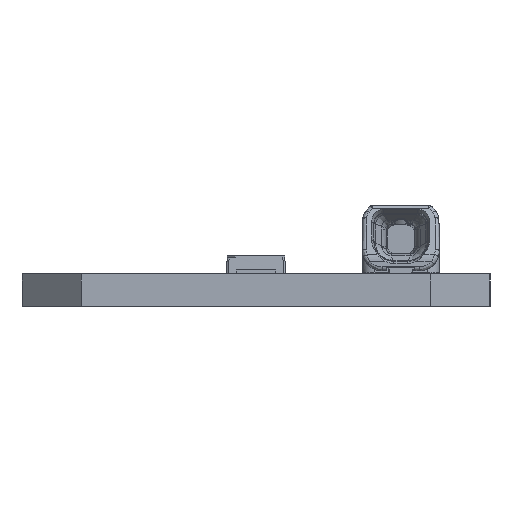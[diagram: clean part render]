
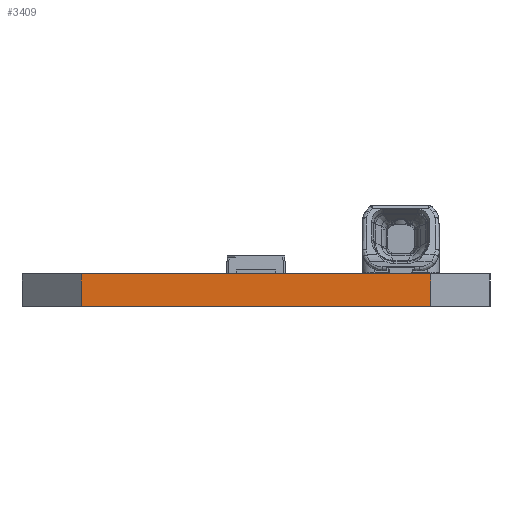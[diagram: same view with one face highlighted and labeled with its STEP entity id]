
A CAD part, left-side view. The second image highlights one B-rep face of the part: STEP entity #3409.
In plain terms, the highlighted planar face has unit normal (-1, 0, 0).
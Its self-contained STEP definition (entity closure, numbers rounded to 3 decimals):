
#313 = AXIS2_PLACEMENT_3D ( 'NONE', #16901, #8953, #1080 ) ;
#432 = ORIENTED_EDGE ( 'NONE', *, *, #13729, .F. ) ;
#544 = DIRECTION ( 'NONE',  ( 0., 0., -1. ) ) ;
#621 = CARTESIAN_POINT ( 'NONE',  ( 7., 8., 0. ) ) ;
#1016 = DIRECTION ( 'NONE',  ( 0., -1., 0. ) ) ;
#1080 = DIRECTION ( 'NONE',  ( 0., 0., 1. ) ) ;
#1454 = VECTOR ( 'NONE', #544, 1000. ) ;
#1480 = PLANE ( 'NONE',  #313 ) ;
#2319 = VERTEX_POINT ( 'NONE', #16011 ) ;
#2391 = EDGE_LOOP ( 'NONE', ( #432, #10823, #6258, #8695 ) ) ;
#3381 = CARTESIAN_POINT ( 'NONE',  ( 7., 25.6, 0. ) ) ;
#3409 = ADVANCED_FACE ( 'NONE', ( #13675 ), #1480, .T. ) ;
#4375 = VERTEX_POINT ( 'NONE', #8186 ) ;
#4503 = LINE ( 'NONE', #14123, #14635 ) ;
#5767 = CARTESIAN_POINT ( 'NONE',  ( 7., 25.6, 0. ) ) ;
#6258 = ORIENTED_EDGE ( 'NONE', *, *, #13494, .T. ) ;
#6545 = VECTOR ( 'NONE', #16607, 1000. ) ;
#7091 = VERTEX_POINT ( 'NONE', #7464 ) ;
#7464 = CARTESIAN_POINT ( 'NONE',  ( 7., 8., -1.65 ) ) ;
#8186 = CARTESIAN_POINT ( 'NONE',  ( 7., 8., 0. ) ) ;
#8438 = LINE ( 'NONE', #5767, #1454 ) ;
#8663 = CARTESIAN_POINT ( 'NONE',  ( 7., 25.6, -1.65 ) ) ;
#8695 = ORIENTED_EDGE ( 'NONE', *, *, #13861, .T. ) ;
#8953 = DIRECTION ( 'NONE',  ( -1., 0., 0. ) ) ;
#9836 = DIRECTION ( 'NONE',  ( 0., 0., -1. ) ) ;
#9849 = VERTEX_POINT ( 'NONE', #3381 ) ;
#9895 = LINE ( 'NONE', #621, #16925 ) ;
#10823 = ORIENTED_EDGE ( 'NONE', *, *, #13978, .F. ) ;
#13494 = EDGE_CURVE ( 'NONE', #9849, #2319, #8438, .T. ) ;
#13675 = FACE_OUTER_BOUND ( 'NONE', #2391, .T. ) ;
#13729 = EDGE_CURVE ( 'NONE', #4375, #7091, #9895, .T. ) ;
#13861 = EDGE_CURVE ( 'NONE', #2319, #7091, #14032, .T. ) ;
#13978 = EDGE_CURVE ( 'NONE', #9849, #4375, #4503, .T. ) ;
#14032 = LINE ( 'NONE', #8663, #6545 ) ;
#14123 = CARTESIAN_POINT ( 'NONE',  ( 7., 17.361, 0. ) ) ;
#14635 = VECTOR ( 'NONE', #1016, 1000. ) ;
#16011 = CARTESIAN_POINT ( 'NONE',  ( 7., 25.6, -1.65 ) ) ;
#16607 = DIRECTION ( 'NONE',  ( 0., -1., 0. ) ) ;
#16901 = CARTESIAN_POINT ( 'NONE',  ( 7., 25.6, 0. ) ) ;
#16925 = VECTOR ( 'NONE', #9836, 1000. ) ;
